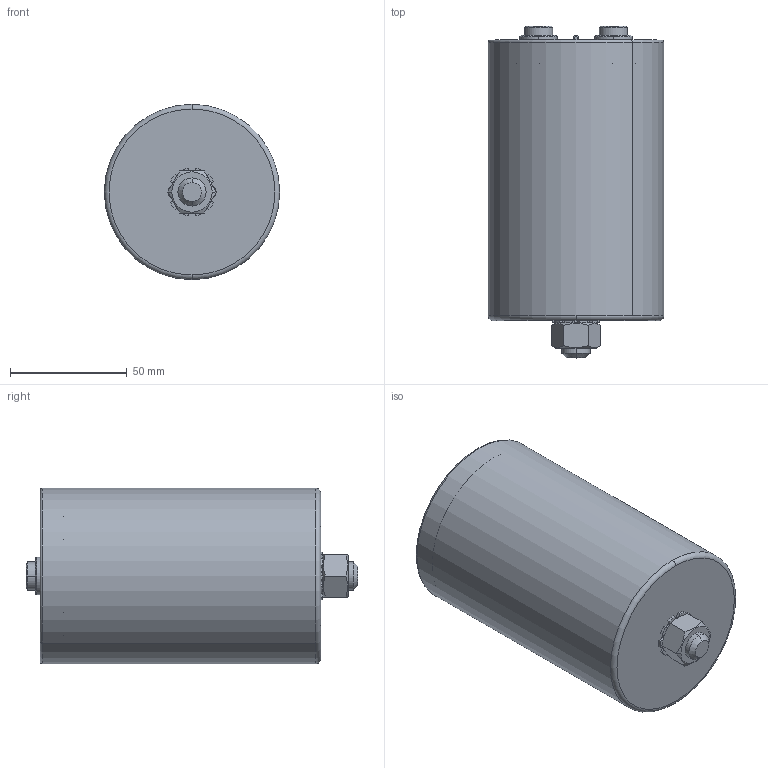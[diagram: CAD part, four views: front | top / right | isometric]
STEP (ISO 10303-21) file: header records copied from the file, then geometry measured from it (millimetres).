
FILE_DESCRIPTION (( 'STEP AP203' ), '1' );
FILE_NAME ('B25690Ax_75x120_126.STEP', '2021-08-30T06:45:52', ( '' ), ( '' ), 'SwSTEP 2.0', 'SolidWorks 2017', '' );
FILE_SCHEMA (( 'CONFIG_CONTROL_DESIGN' ));
Length unit declared in the file: millimetre
Products named in the file (1): B25690Ax_75x120_126
Bounding box: 75 x 142 x 75 mm (x, y, z)
Volume: 78452.2 mm3; surface area: 83602.5 mm2
Topology: 1 solids, 3 shells, 263 faces, 675 edges, 432 vertices
Faces by surface type: plane 145, cylinder 80, cone 28, torus 10
Entity records: 8308 total; most frequent: CARTESIAN_POINT 1807, DIRECTION 1389, ORIENTED_EDGE 1350, EDGE_CURVE 675, AXIS2_PLACEMENT_3D 534, VERTEX_POINT 432, VECTOR 321, LINE 321
